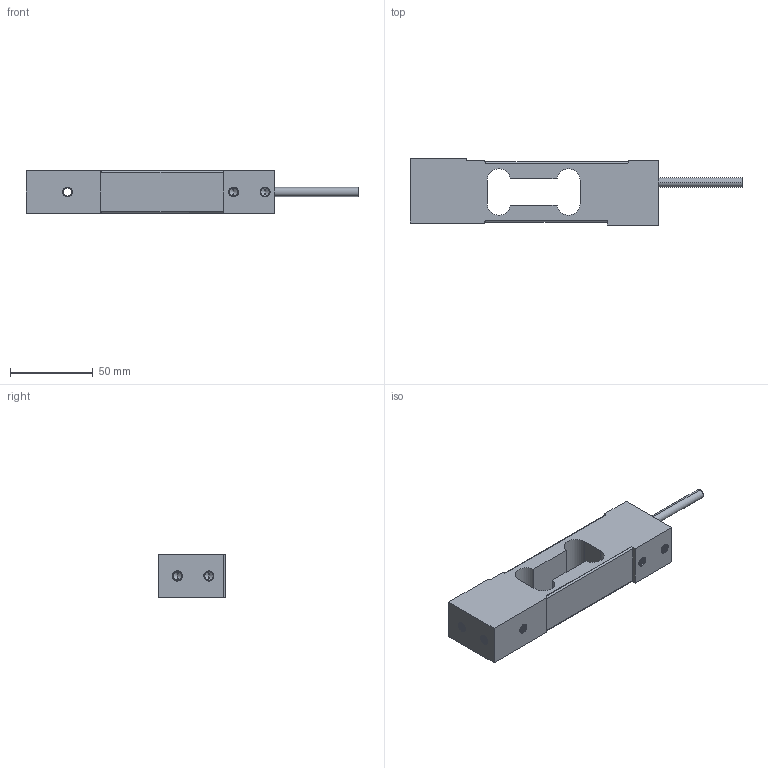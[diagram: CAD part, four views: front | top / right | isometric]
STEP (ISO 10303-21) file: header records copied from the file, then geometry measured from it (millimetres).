
FILE_DESCRIPTION (( 'STEP AP203' ), '1' );
FILE_NAME ('LCE16.STEP', '2024-11-14T08:09:32', ( '' ), ( '' ), 'SwSTEP 2.0', 'SolidWorks 2019', '' );
FILE_SCHEMA (( 'CONFIG_CONTROL_DESIGN' ));
Products named in the file (1): LCE16
Bounding box: 200 x 40 x 25.4 mm (x, y, z)
Volume: 111885 mm3; surface area: 34731.6 mm2
Topology: 4 solids, 4 shells, 491 faces, 1423 edges, 932 vertices
Faces by surface type: cylinder 262, bspline 160, plane 40, cone 29
Entity records: 124166 total; most frequent: CARTESIAN_POINT 114380, ORIENTED_EDGE 2826, EDGE_CURVE 1413, DIRECTION 1146, VERTEX_POINT 932, EDGE_LOOP 501, ADVANCED_FACE 491, FACE_OUTER_BOUND 491
